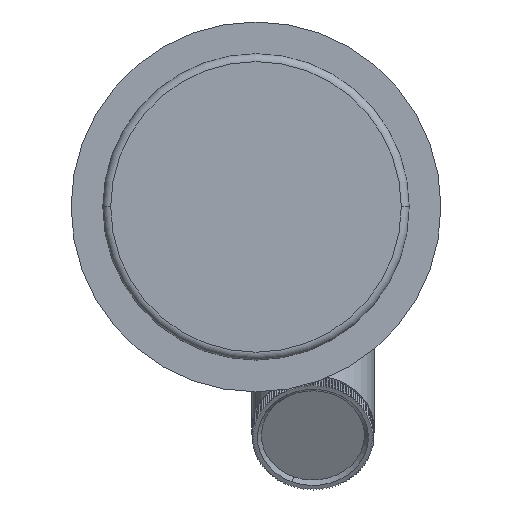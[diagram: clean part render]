
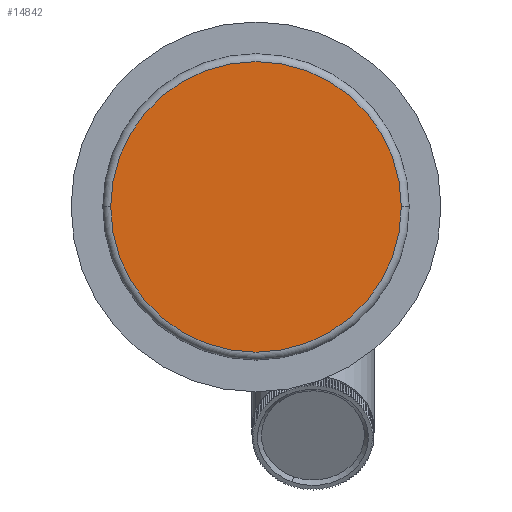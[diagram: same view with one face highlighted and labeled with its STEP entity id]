
A CAD part, front view. The second image highlights one B-rep face of the part: STEP entity #14842.
In plain terms, the highlighted planar face has unit normal (0, -1, 0).
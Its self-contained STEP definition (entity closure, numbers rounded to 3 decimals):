
#14711=CARTESIAN_POINT('',(0.,0.,0.));
#14712=DIRECTION('',(0.,-1.,0.));
#14713=DIRECTION('',(1.,0.,0.));
#14714=AXIS2_PLACEMENT_3D('',#14711,#14712,#14713);
#14726=CARTESIAN_POINT('',(0.,0.,0.));
#14727=DIRECTION('',(0.,1.,0.));
#14728=DIRECTION('',(1.,0.,0.));
#14729=AXIS2_PLACEMENT_3D('',#14726,#14727,#14728);
#14807=CARTESIAN_POINT('',(55.,0.,0.));
#14809=VERTEX_POINT('',#14807);
#14819=CARTESIAN_POINT('',(-55.,0.,0.));
#14821=VERTEX_POINT('',#14819);
#14831=CARTESIAN_POINT('',(0.,0.,0.));
#14832=DIRECTION('',(0.,-1.,0.));
#14833=DIRECTION('',(-1.,0.,0.));
#14834=AXIS2_PLACEMENT_3D('',#14831,#14832,#14833);
#14835=PLANE('',#14834);
#14837=ORIENTED_EDGE('',*,*,#14836,.F.);
#14839=ORIENTED_EDGE('',*,*,#14838,.T.);
#14840=EDGE_LOOP('',(#14837,#14839));
#14841=FACE_OUTER_BOUND('',#14840,.F.);
#14842=ADVANCED_FACE('',(#14841),#14835,.T.);
#14715=CIRCLE('',#14714,55.);
#14730=CIRCLE('',#14729,55.);
#14836=EDGE_CURVE('',#14809,#14821,#14715,.T.);
#14838=EDGE_CURVE('',#14809,#14821,#14730,.T.);
